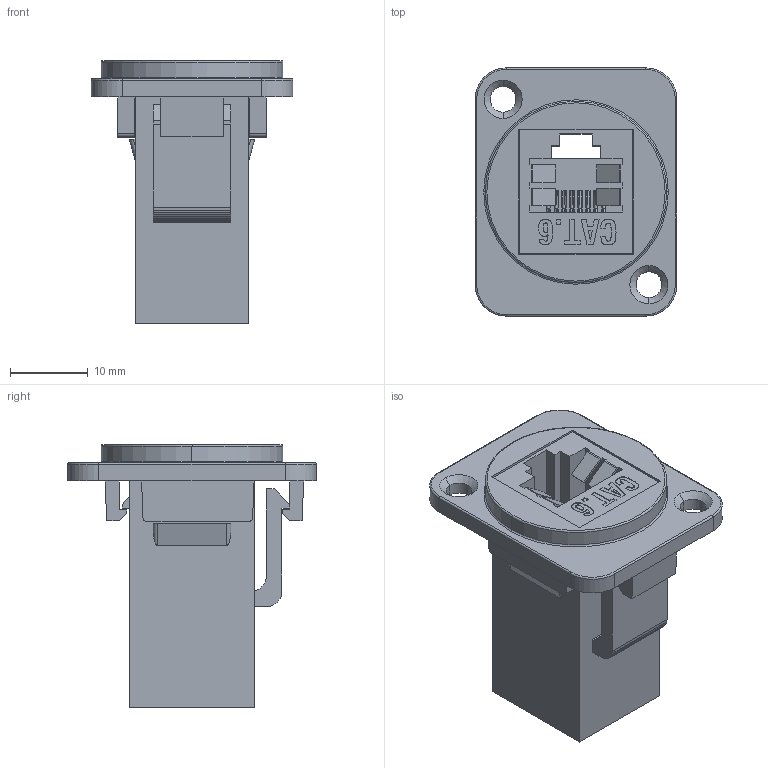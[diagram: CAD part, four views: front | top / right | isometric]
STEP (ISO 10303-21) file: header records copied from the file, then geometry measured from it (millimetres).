
FILE_DESCRIPTION((''),'2;1');
FILE_NAME('CAT6TWO_ASM_ASM','2023-09-04T17:08:26',('Administrator'),(''),'CREO PARAMETRIC BY PTC INC, 2019010','CREO PARAMETRIC BY PTC INC, 2019010','');
FILE_SCHEMA(('CONFIG_CONTROL_DESIGN'));
Length unit declared in the file: millimetre
Products named in the file (4): CAT6_12; TWO_2; CAT6TWO_ASM_11_ASM; CAT6TWO_ASM_ASM
Assembly tree (3 placements, depth 3):
  CAT6TWO_ASM_ASM
    CAT6TWO_ASM_11_ASM
      CAT6_12
      TWO_2
Bounding box: 26 x 32 x 33.9 mm (x, y, z)
Volume: 8538.5 mm3; surface area: 6831.6 mm2
Topology: 2 solids, 2 shells, 504 faces, 1377 edges, 898 vertices
Faces by surface type: plane 288, extrusion 110, cylinder 62, bspline 32, torus 8, cone 4
Entity records: 18011 total; most frequent: CARTESIAN_POINT 5716, ORIENTED_EDGE 2754, DIRECTION 2013, EDGE_CURVE 1377, VECTOR 1055, LINE 945, VERTEX_POINT 898, EDGE_LOOP 565
